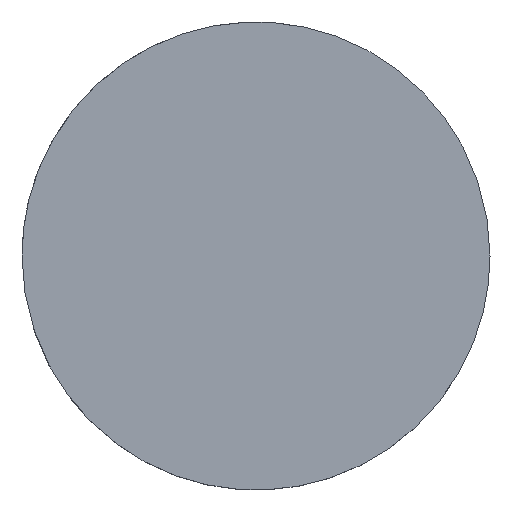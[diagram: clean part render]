
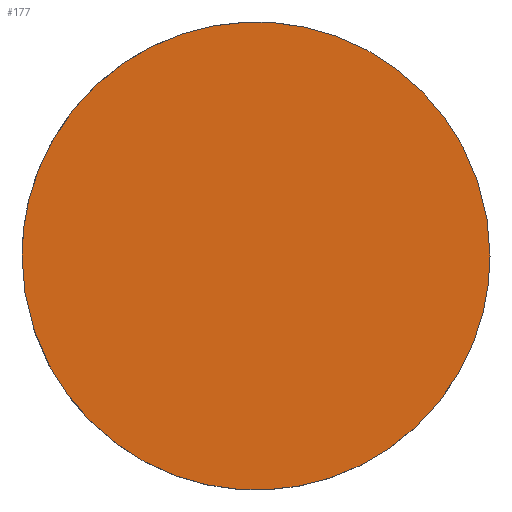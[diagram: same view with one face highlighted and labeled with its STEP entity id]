
A CAD part, top view. The second image highlights one B-rep face of the part: STEP entity #177.
In plain terms, the highlighted planar face has unit normal (0, 0, 1).
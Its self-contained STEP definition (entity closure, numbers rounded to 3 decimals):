
#19 = CARTESIAN_POINT ('', (-12.5, 0., -70.938));
#20 = VERTEX_POINT ('', #19);
#26 = CARTESIAN_POINT ('', (12.5, 0., -70.938));
#27 = VERTEX_POINT ('', #26);
#28 = CARTESIAN_POINT ('', (12.5, 0., -70.938));
#29 = CARTESIAN_POINT ('', (12.5, 12.5, -70.938));
#30 = CARTESIAN_POINT ('', (0., 12.5, -70.938));
#31 = CARTESIAN_POINT ('', (-12.5, 12.5, -70.938));
#32 = CARTESIAN_POINT ('', (-12.5, 0., -70.938));
#33 = (
   BOUNDED_CURVE ()
   B_SPLINE_CURVE (2, (#28, #29, #30, #31, #32), .UNSPECIFIED., .F., .U.)
   B_SPLINE_CURVE_WITH_KNOTS ((3, 2, 3), (0., 1.571, 3.142), .UNSPECIFIED.)
   CURVE ()
   GEOMETRIC_REPRESENTATION_ITEM ()
   RATIONAL_B_SPLINE_CURVE ((1., 0.707, 1., 0.707, 1.))
   REPRESENTATION_ITEM ('')
);
#34 = EDGE_CURVE ('', #27, #20, #33, .T.);
#58 = CARTESIAN_POINT ('', (-12.5, 0., -70.938));
#59 = CARTESIAN_POINT ('', (-12.5, -12.5, -70.938));
#60 = CARTESIAN_POINT ('', (0., -12.5, -70.938));
#61 = CARTESIAN_POINT ('', (12.5, -12.5, -70.938));
#62 = CARTESIAN_POINT ('', (12.5, 0., -70.938));
#63 = (
   BOUNDED_CURVE ()
   B_SPLINE_CURVE (2, (#58, #59, #60, #61, #62), .UNSPECIFIED., .F., .U.)
   B_SPLINE_CURVE_WITH_KNOTS ((3, 2, 3), (3.142, 4.712, 6.283), .UNSPECIFIED.)
   CURVE ()
   GEOMETRIC_REPRESENTATION_ITEM ()
   RATIONAL_B_SPLINE_CURVE ((1., 0.707, 1., 0.707, 1.))
   REPRESENTATION_ITEM ('')
);
#64 = EDGE_CURVE ('', #20, #27, #63, .T.);
#168 = ORIENTED_EDGE ('', *, *, #34, .T.);
#169 = ORIENTED_EDGE ('', *, *, #64, .T.);
#170 = EDGE_LOOP ('', (#168, #169));
#171 = FACE_OUTER_BOUND ('', #170, .T.);
#172 = CARTESIAN_POINT ('', (0., 25.704, -70.938));
#173 = DIRECTION ('', (0., 0., 1.));
#174 = DIRECTION ('', (-0.707, -0.707, 0.));
#175 = AXIS2_PLACEMENT_3D ('', #172, #173, #174);
#176 = PLANE ('', #175);
#177 = ADVANCED_FACE ('', (#171), #176, .T.);
